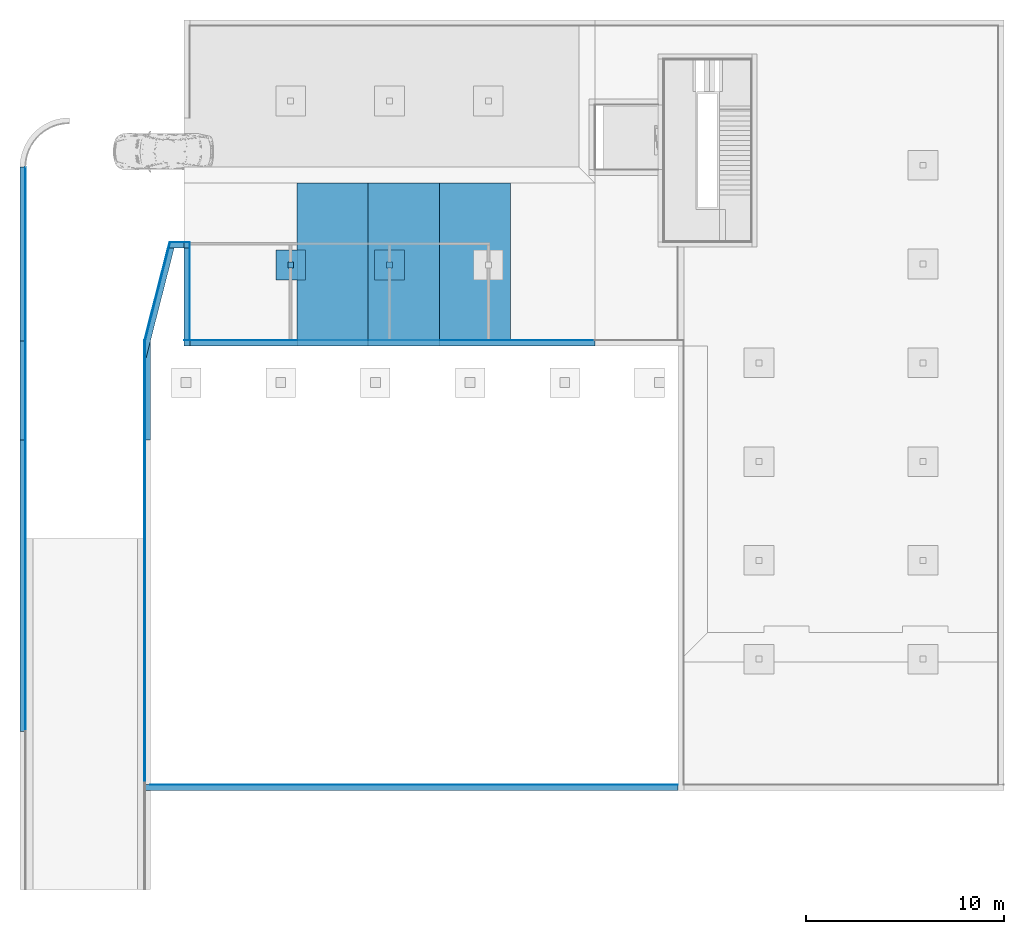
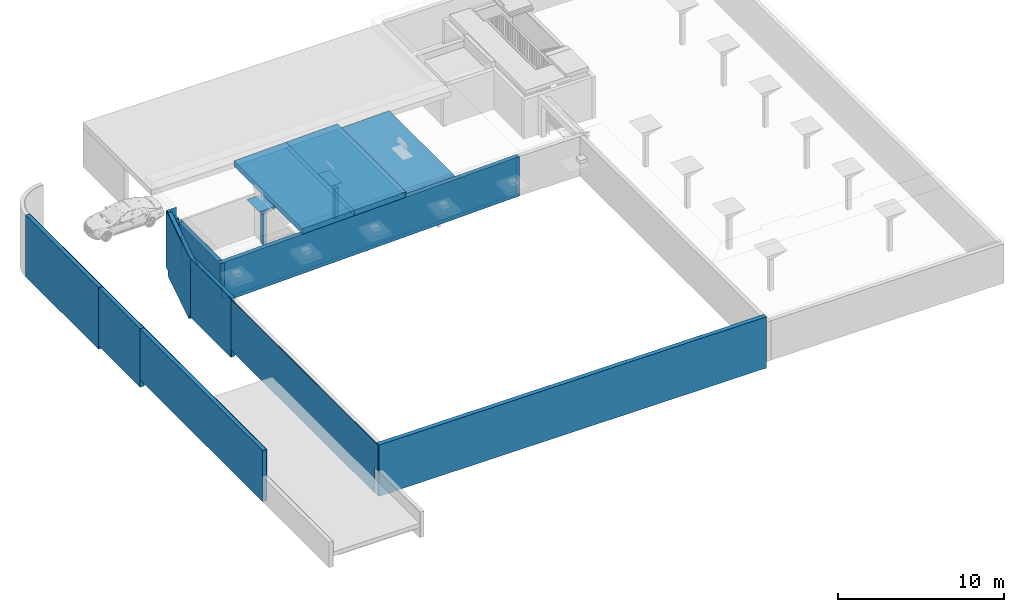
# One storey, part 2 of 7: 28 building element parts, 15 elements without a shape of their own.
"""IFC4 building model written with IfcOpenShell, lengths in millimetres."""

from ifc_helpers import new_model, entity, si_unit, converted_unit, derived_unit, direction, frame, origin_with_axes, place, context, subcontext, project, spatial, polygons, material, type_object, element, aggregate, save


model = new_model("IFC4")

# Units and contexts
model_context = context("Model", 3, precision=0.01, world=origin_with_axes(), true_north=direction((0.0, 1.0)))
body_context = subcontext(model_context, "Body", "Model", "MODEL_VIEW")
ifc_project = project(units=[si_unit("LENGTHUNIT", "METRE", prefix="MILLI"), si_unit("AREAUNIT", "SQUARE_METRE"), si_unit("VOLUMEUNIT", "CUBIC_METRE"), converted_unit("PLANEANGLEUNIT", "DEGREE", entity("IfcPlaneAngleMeasure", 0.0174532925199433), si_unit("PLANEANGLEUNIT", "RADIAN"), dimensions=[0, 0, 0, 0, 0, 0, 0]), converted_unit("TIMEUNIT", "Year", entity("IfcTimeMeasure", 31557600.0), si_unit("TIMEUNIT", "SECOND"), dimensions=[0, 0, 1, 0, 0, 0, 0]), si_unit("MASSUNIT", "GRAM", prefix="KILO"), si_unit("THERMODYNAMICTEMPERATUREUNIT", "DEGREE_CELSIUS"), si_unit("LUMINOUSINTENSITYUNIT", "LUMEN"), si_unit("ENERGYUNIT", "JOULE", prefix="MEGA"), derived_unit("THERMALCONDUCTANCEUNIT", [(si_unit("POWERUNIT", "WATT"), 1), (si_unit("LENGTHUNIT", "METRE"), -1), (si_unit("THERMODYNAMICTEMPERATUREUNIT", "KELVIN"), -1)]), derived_unit("SPECIFICHEATCAPACITYUNIT", [(si_unit("ENERGYUNIT", "JOULE"), 1), (si_unit("MASSUNIT", "GRAM", prefix="KILO"), -1), (si_unit("THERMODYNAMICTEMPERATUREUNIT", "KELVIN"), -1)]), derived_unit("MASSDENSITYUNIT", [(si_unit("MASSUNIT", "GRAM", prefix="KILO"), 1), (si_unit("VOLUMEUNIT", "CUBIC_METRE"), -1)])], contexts=[model_context])

# Site, building, storey
site_placement = place(None, origin_with_axes())
site = spatial("IfcSite", under=ifc_project, at=site_placement, Name="Gelände", CompositionType="ELEMENT")
building_placement = place(site_placement, origin_with_axes())
building = spatial("IfcBuilding", under=site, at=building_placement, Name="Gebäude", CompositionType="ELEMENT")
storey_placement = place(building_placement, frame((0.0, 0.0, -3900.000000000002), z_axis=(0.0, 0.0, 1.0), x_axis=(1.0, 0.0, 0.0)))
storey = spatial("IfcBuildingStorey", under=building, at=storey_placement, Name="UG", CompositionType="ELEMENT", Elevation=-3900.0)

# Covering, building element part
covering_type = type_object("IfcCoveringType", Name="Deckenbekleidung Typ 01 65", PredefinedType="NOTDEFINED")
covering_placement = place(storey_placement, frame((-8571.001794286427, 31197.59699912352, 2834.97306921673), z_axis=(0.0, 0.0, 1.0), x_axis=(0.0, -1.0, 0.0)))
covering = element("IfcCovering", 1, at=covering_placement, inside=storey, type_object=covering_type, Name="Dach-011", PredefinedType="NOTDEFINED")
ifc_material_1 = material(Name="Lattenrost vertikal")
building_element_part_1_placement = place(covering_placement, origin_with_axes())
building_element_part_1 = element("IfcBuildingElementPart", 2, at=building_element_part_1_placement, material=ifc_material_1, Name="Lattenrost vertikal", PredefinedType="NOTDEFINED", context=body_context, shape_type="Tessellation", body=[
    polygons([(8250.000257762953, 12922.99761277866, 437.7024497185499), (8250.000257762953, 16522.99761277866, 541.5198129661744), (0.0, 16522.99761277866, 541.5198129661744), (0.0, 12922.99761277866, 437.7024497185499), (8250.000258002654, 12922.99761296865, 397.6858203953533), (8250.000258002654, 16522.99761301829, 501.5031836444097), (1.083790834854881e-07, 16522.99761301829, 501.5031836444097), (1.083790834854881e-07, 12922.99761296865, 397.6858203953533)], [[[1, 2, 3, 4]], [[1, 5, 6, 2]], [[2, 6, 7, 3]], [[3, 7, 8, 4]], [[4, 8, 5, 1]], [[5, 8, 7, 6]]], closed=True),
])
aggregate(covering, [building_element_part_1])

# Wall, building element part
wall_type_1 = type_object("IfcWallType", Name="Aussenwand Typ 03 301", PredefinedType="NOTDEFINED")
wall_1_placement = place(storey_placement, frame((12228.99718832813, 22947.59853319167, 0.0), z_axis=(0.0, 0.0, 1.0), x_axis=(-0.9999999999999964, -8.614572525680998e-08, 0.0)))
wall_1 = element("IfcWall", 3, at=wall_1_placement, inside=storey, type_object=wall_type_1, Name="Wand-013", PredefinedType="NOTDEFINED")
ifc_material_2 = material(Name="Beton bewehrt")
building_element_part_2_placement = place(wall_1_placement, origin_with_axes())
building_element_part_2 = element("IfcBuildingElementPart", 4, at=building_element_part_2_placement, material=ifc_material_2, Name="Beton bewehrt", PredefinedType="NOTDEFINED", context=body_context, shape_type="Tessellation", body=[
    polygons([(-4.086162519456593e-06, 0.001125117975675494, 599.9999722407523), (-2.584362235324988e-05, -299.9988743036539, 599.9999689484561), (-2.584370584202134e-05, -299.9998634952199, 3499.833724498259), (0.0, 0.0001365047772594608, 3499.833724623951), (109.0908145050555, -299.9987813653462, 587.9999765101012), (20154.54592650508, -300.0016925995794, 0.0), (20499.99971771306, -300.0017659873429, 0.0), (20499.99971771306, -300.0017630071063, 2900.000051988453), (20799.99971771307, -300.0017896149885, 2900.000077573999), (20799.99974355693, 0.0, 2900.000051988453), (20499.99974355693, 0.0, 2900.000051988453), (20499.99974355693, 0.0, 0.0), (20454.54772418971, 1.709452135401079e-06, 0.0)], [[[1, 2, 3, 4]], [[5, 2, 1]], [[2, 5, 6, 7, 8, 9, 3]], [[10, 4, 3, 9]], [[10, 11, 12, 13, 1, 4]], [[5, 1, 13, 6]], [[13, 12, 7, 6]], [[12, 11, 8, 7]], [[11, 10, 9, 8]]], closed=True),
])

wall_2_placement = place(storey_placement, frame((-8571.002555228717, 27897.59725747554, 0.0), z_axis=(0.0, 0.0, 1.0), x_axis=(-8.499947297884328e-08, -0.9999999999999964, 0.0)))
wall_2 = element("IfcWall", 5, at=wall_2_placement, inside=storey, type_object=wall_type_1, Name="Wand-013", PredefinedType="NOTDEFINED")
ifc_material_3 = material(Name="Anstrich Innen")
building_element_part_3_placement = place(wall_2_placement, origin_with_axes())
building_element_part_3 = element("IfcBuildingElementPart", 6, at=building_element_part_3_placement, material=ifc_material_3, Name="Anstrich Innen", PredefinedType="NOTDEFINED", context=body_context, shape_type="Tessellation", body=[
    polygons([(4650.000464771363, 300.0003952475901, 0.0), (-300.0000254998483, 299.9999745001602, 0.0), (-300.000025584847, 300.9999745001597, 0.0), (4650.000464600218, 301.0003952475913, 0.0), (4650.000464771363, 300.0003952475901, 2900.000051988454), (-300.0000254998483, 299.9999745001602, 2900.000051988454), (-300.000025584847, 300.9999745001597, 2900.000051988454), (4650.000464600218, 301.0003952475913, 2900.000051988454)], [[[1, 2, 3, 4]], [[5, 6, 2, 1]], [[3, 2, 6, 7]], [[4, 3, 7, 8]], [[4, 8, 5, 1]], [[8, 7, 6, 5]]], closed=True),
])

# Building element part
building_element_part_4_placement = place(wall_1_placement, origin_with_axes())
building_element_part_4 = element("IfcBuildingElementPart", 7, at=building_element_part_4_placement, material=ifc_material_3, Name="Anstrich Innen", PredefinedType="NOTDEFINED", context=body_context, shape_type="Tessellation", body=[
    polygons([(-2.584372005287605e-05, -299.9999999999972, 599.9999689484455), (-2.592986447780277e-05, -300.9999999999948, 599.9999689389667), (-2.592986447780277e-05, -300.9999999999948, 3499.833724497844), (-2.584372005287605e-05, -299.9999999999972, 3499.833724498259), (109.4548972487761, -301.000009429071, 587.959927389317), (109.0912602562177, -300.0000071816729, 587.9999274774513), (20153.54588261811, -301.0017361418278, 0.0), (20498.99971762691, -301.0017659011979, 0.0), (20498.99971762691, -301.0017659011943, 2900.000051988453), (20799.99971762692, -301.0017918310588, 2900.00007757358), (20799.99971771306, -300.0017896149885, 2900.000051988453), (20498.99971771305, -300.0017629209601, 2900.000051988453), (20498.99971771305, -300.0017659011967, 0.0), (20154.54588287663, -300.0017362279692, 0.0)], [[[1, 2, 3, 4]], [[5, 2, 1, 6]], [[2, 5, 7, 8, 9, 10, 3]], [[4, 3, 10, 11]], [[6, 1, 4, 11, 12, 13, 14]], [[5, 6, 14, 7]], [[14, 13, 8, 7]], [[8, 13, 12, 9]], [[12, 11, 10, 9]]], closed=True),
])

aggregate(wall_1, [building_element_part_2, building_element_part_4])

building_element_part_5_placement = place(wall_2_placement, origin_with_axes())
building_element_part_5 = element("IfcBuildingElementPart", 8, at=building_element_part_5_placement, material=ifc_material_2, Name="Beton bewehrt", PredefinedType="NOTDEFINED", context=body_context, shape_type="Tessellation", body=[
    polygons([(4950.000516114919, 0.0004207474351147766, 0.0), (0.0, 0.0, 0.0), (-2.549984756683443e-05, 300.0000000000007, 0.0), (4950.000464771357, 300.0004207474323, 0.0), (4950.000516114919, 0.0004207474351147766, 2900.000051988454), (0.0, 0.0, 2900.000051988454), (-2.549984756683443e-05, 300.0000000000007, 2900.000051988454), (4950.000464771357, 300.0004207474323, 2900.000051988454)], [[[1, 2, 3, 4]], [[5, 6, 2, 1]], [[3, 2, 6, 7]], [[4, 3, 7, 8]], [[4, 8, 5, 1]], [[8, 7, 6, 5]]], closed=True),
])

aggregate(wall_2, [building_element_part_3, building_element_part_5])

# Footing, building element parts
footing_type_1 = type_object("IfcFootingType", Name="Verschiedene Strukturen - 2 Segmente - 1500 x 1500 x 3017 (2263+754)", PredefinedType="NOTDEFINED")
footing_1_placement = place(storey_placement, frame((-3170.744596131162, 27047.59725747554, 38.14089893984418), z_axis=(0.0, 0.0, 1.0), x_axis=(1.0, 0.0, 0.0)))
footing_1 = element("IfcFooting", 9, at=footing_1_placement, inside=storey, type_object=footing_type_1, Name="Stütze-014", PredefinedType="NOTDEFINED")
building_element_part_6_placement = place(footing_1_placement, origin_with_axes())
building_element_part_6 = element("IfcBuildingElementPart", 10, at=building_element_part_6_placement, material=ifc_material_2, Name="Beton bewehrt", PredefinedType="NOTDEFINED", context=body_context, shape_type="Tessellation", body=[
    polygons([(-149.9999999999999, -149.9999999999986, 2263.10203793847), (-149.9999999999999, -149.9999999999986, 0.0), (149.9999999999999, -149.9999999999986, 0.0), (149.9999999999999, -149.9999999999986, 2263.10203793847), (-149.9999999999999, 149.9999999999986, 2263.10203793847), (-149.9999999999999, 149.9999999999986, 0.0), (149.9999999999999, 149.9999999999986, 0.0), (149.9999999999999, 149.9999999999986, 2263.10203793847)], [[[1, 2, 3, 4]], [[5, 6, 2, 1]], [[3, 2, 6, 7]], [[4, 3, 7, 8]], [[5, 1, 4, 8]], [[8, 7, 6, 5]]], closed=True),
])
building_element_part_7_placement = place(footing_1_placement, origin_with_axes())
building_element_part_7 = element("IfcBuildingElementPart", 11, at=building_element_part_7_placement, material=ifc_material_2, Name="Beton bewehrt", PredefinedType="NOTDEFINED", context=body_context, shape_type="Tessellation", body=[
    polygons([(750.0, -750.0, 3017.469383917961), (-750.0, -750.0, 3017.469383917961), (-149.9999999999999, -149.9999999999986, 2263.10203793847), (149.9999999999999, -149.9999999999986, 2263.10203793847), (750.0, 750.0, 3017.469383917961), (-750.0, 750.0, 3017.469383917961), (-149.9999999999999, 149.9999999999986, 2263.10203793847), (149.9999999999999, 149.9999999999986, 2263.10203793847)], [[[1, 2, 3, 4]], [[5, 6, 2, 1]], [[2, 6, 7, 3]], [[8, 4, 3, 7]], [[5, 1, 4, 8]], [[6, 5, 8, 7]]], closed=True),
])
aggregate(footing_1, [building_element_part_6, building_element_part_7])

footing_type_2 = type_object("IfcFootingType", Name="Verschiedene Strukturen - 2 Segmente - 1500 x 1500 x 3015 (2261+754)", PredefinedType="NOTDEFINED")
footing_2_placement = place(storey_placement, frame((1828.997492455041, 27047.59725747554, 184.7999999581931), z_axis=(0.0, 0.0, 1.0), x_axis=(1.0, 0.0, 0.0)))
footing_2 = element("IfcFooting", 12, at=footing_2_placement, inside=storey, type_object=footing_type_2, Name="Stütze-014", PredefinedType="NOTDEFINED")
building_element_part_8_placement = place(footing_2_placement, origin_with_axes())
building_element_part_8 = element("IfcBuildingElementPart", 13, at=building_element_part_8_placement, material=ifc_material_2, Name="Beton bewehrt", PredefinedType="NOTDEFINED", context=body_context, shape_type="Tessellation", body=[
    polygons([(-149.9999999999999, -149.9999999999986, 2261.275216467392), (-149.9999999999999, -149.9999999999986, 0.0), (149.9999999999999, -149.9999999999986, 0.0), (149.9999999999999, -149.9999999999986, 2261.275216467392), (-149.9999999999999, 149.9999999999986, 2261.275216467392), (-149.9999999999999, 149.9999999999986, 0.0), (149.9999999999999, 149.9999999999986, 0.0), (149.9999999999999, 149.9999999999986, 2261.275216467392)], [[[1, 2, 3, 4]], [[5, 6, 2, 1]], [[3, 2, 6, 7]], [[4, 3, 7, 8]], [[5, 1, 4, 8]], [[8, 7, 6, 5]]], closed=True),
])
building_element_part_9_placement = place(footing_2_placement, origin_with_axes())
building_element_part_9 = element("IfcBuildingElementPart", 14, at=building_element_part_9_placement, material=ifc_material_2, Name="Beton bewehrt", PredefinedType="NOTDEFINED", context=body_context, shape_type="Tessellation", body=[
    polygons([(750.0, -750.0, 3015.033621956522), (-750.0, -750.0, 3015.033621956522), (-149.9999999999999, -149.9999999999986, 2261.275216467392), (149.9999999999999, -149.9999999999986, 2261.275216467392), (750.0, 750.0, 3015.033621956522), (-750.0, 750.0, 3015.033621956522), (-149.9999999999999, 149.9999999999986, 2261.275216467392), (149.9999999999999, 149.9999999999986, 2261.275216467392)], [[[1, 2, 3, 4]], [[5, 6, 2, 1]], [[2, 6, 7, 3]], [[8, 4, 3, 7]], [[5, 1, 4, 8]], [[6, 5, 8, 7]]], closed=True),
])
aggregate(footing_2, [building_element_part_8, building_element_part_9])

# Slab, building element parts
slab_type_1 = type_object("IfcSlabType", Name="Geschossdecke Typ 08 401", PredefinedType="NOTDEFINED")
slab_1_placement = place(storey_placement, frame((-8571.00297597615, 39447.59725747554, 2898.999676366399), z_axis=(0.0, 0.0, 1.0), x_axis=(7.161755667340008e-08, -0.9999999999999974, 0.0)))
slab_1 = element("IfcSlab", 15, at=slab_1_placement, inside=storey, type_object=slab_type_1, Name="Dach-011", PredefinedType="NOTDEFINED")
building_element_part_10_placement = place(slab_1_placement, origin_with_axes())
building_element_part_10 = element("IfcBuildingElementPart", 16, at=building_element_part_10_placement, material=ifc_material_2, Name="Beton bewehrt", PredefinedType="NOTDEFINED", context=body_context, shape_type="Tessellation", body=[
    polygons([(8250.000926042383, 9322.998203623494, 670.0247898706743), (8250.00066821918, 5722.998203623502, 566.2074266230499), (16500.00092598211, 5722.997612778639, 566.2074095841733), (16500.00118380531, 9322.997612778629, 670.0247728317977), (8250.00092539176, 9322.998204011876, 269.8584965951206), (8250.00066741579, 5722.998203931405, 166.0411333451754), (16500.00092539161, 5722.997612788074, 166.0411162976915), (16500.00118336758, 9322.997612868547, 269.8584795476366)], [[[1, 2, 3, 4]], [[1, 5, 6, 2]], [[2, 6, 7, 3]], [[3, 7, 8, 4]], [[4, 8, 5, 1]], [[5, 8, 7, 6]]], closed=True),
])
building_element_part_11_placement = place(slab_1_placement, origin_with_axes())
building_element_part_11 = element("IfcBuildingElementPart", 17, at=building_element_part_11_placement, material=ifc_material_3, Name="Anstrich Innen", PredefinedType="NOTDEFINED", context=body_context, shape_type="Tessellation", body=[
    polygons([(16500.00118336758, 9322.997612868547, 269.8584795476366), (16500.00118336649, 9322.99761286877, 268.8580642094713), (8250.000925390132, 9322.998204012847, 268.8580812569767), (8250.00092539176, 9322.998204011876, 269.8584965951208), (16500.00092539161, 5722.997612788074, 166.0411162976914), (16500.00092539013, 5722.997612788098, 165.0407009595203), (8250.000667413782, 5722.998203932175, 165.0407180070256), (8250.00066741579, 5722.998203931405, 166.0411333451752)], [[[1, 2, 3, 4]], [[5, 6, 2, 1]], [[2, 6, 7, 3]], [[4, 3, 7, 8]], [[4, 8, 5, 1]], [[8, 7, 6, 5]]], closed=True),
])
aggregate(slab_1, [building_element_part_10, building_element_part_11])

slab_type_2 = type_object("IfcSlabType", Name="Geschossdecke Typ 07 410", PredefinedType="NOTDEFINED")
slab_2_placement = place(storey_placement, frame((-8571.00297597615, 39447.59725747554, 2889.995934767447), z_axis=(0.0, 0.0, 1.0), x_axis=(7.161755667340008e-08, -0.9999999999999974, 0.0)))
slab_2 = element("IfcSlab", 18, at=slab_2_placement, inside=storey, type_object=slab_type_2, Name="Dach-011", PredefinedType="NOTDEFINED")
building_element_part_12_placement = place(slab_2_placement, origin_with_axes())
building_element_part_12 = element("IfcBuildingElementPart", 19, at=building_element_part_12_placement, material=ifc_material_2, Name="Beton bewehrt", PredefinedType="NOTDEFINED", context=body_context, shape_type="Tessellation", body=[
    polygons([(8250.001183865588, 12922.99820362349, 782.8458947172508), (8250.000926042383, 9322.998203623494, 679.0285314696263), (16500.00118380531, 9322.99761277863, 679.0285144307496), (16500.00144162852, 12922.99761277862, 782.8458776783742), (8250.001183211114, 12922.99820400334, 382.6796014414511), (8250.000925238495, 9322.998203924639, 278.8622381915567), (16500.00118320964, 9322.99761278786, 278.8622211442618), (16500.00144118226, 12922.99761286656, 382.6795843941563)], [[[1, 2, 3, 4]], [[1, 5, 6, 2]], [[2, 6, 7, 3]], [[3, 7, 8, 4]], [[4, 8, 5, 1]], [[5, 8, 7, 6]]], closed=True),
])
ifc_material_4 = material(Name="Kalkzementputz Aussen")
building_element_part_13_placement = place(slab_2_placement, origin_with_axes())
building_element_part_13 = element("IfcBuildingElementPart", 20, at=building_element_part_13_placement, material=ifc_material_4, Name="Kalkzementputz Aussen", PredefinedType="NOTDEFINED", context=body_context, shape_type="Tessellation", body=[
    polygons([(16500.00144118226, 12922.99761286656, 382.6795843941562), (16500.00144117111, 12922.99761286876, 372.6754269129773), (8250.001183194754, 12922.99820401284, 372.6754439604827), (8250.001183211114, 12922.99820400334, 382.6796014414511), (16500.00118320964, 9322.99761278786, 278.8622211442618), (16500.00118319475, 9322.997612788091, 268.8580636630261), (8250.000925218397, 9322.998203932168, 268.8580807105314), (8250.000925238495, 9322.998203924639, 278.8622381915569)], [[[1, 2, 3, 4]], [[5, 6, 2, 1]], [[2, 6, 7, 3]], [[4, 3, 7, 8]], [[4, 8, 5, 1]], [[8, 7, 6, 5]]], closed=True),
])
aggregate(slab_2, [building_element_part_12, building_element_part_13])

# Wall, building element part
wall_3_placement = place(storey_placement, frame((-8571.002555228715, 27897.59725747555, -640.0000011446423), z_axis=(0.0, 0.0, 1.0), x_axis=(-1.0, 0.0, 0.0)))
wall_3 = element("IfcWall", 21, at=wall_3_placement, inside=storey, type_object=wall_type_1, Name="Wand-013", PredefinedType="NOTDEFINED")
building_element_part_14_placement = place(wall_3_placement, origin_with_axes())
building_element_part_14 = element("IfcBuildingElementPart", 22, at=building_element_part_14_placement, material=ifc_material_3, Name="Anstrich Innen", PredefinedType="NOTDEFINED", context=body_context, shape_type="Tessellation", body=[
    polygons([(0.0, -300.0000047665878, 365.5000000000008), (0.0, -300.9999999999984, 365.5000000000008), (0.0, -300.9999999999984, 640.0000011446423), (0.0, -300.0000047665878, 640.0000011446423), (691.4895776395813, -301.0000000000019, 365.5000000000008), (691.7448993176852, -299.999990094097, 365.5000000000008), (691.4895776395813, -301.0000000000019, 4540.000053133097), (0.0, -300.9999999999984, 4540.000053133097), (0.0, -300.9999999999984, 3540.000053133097), (-300.999978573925, -300.9999999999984, 3540.000053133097), (-300.999978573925, -300.9999999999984, 640.0000011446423), (-300.999978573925, -300.0000047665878, 640.0000011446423), (-300.999978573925, -300.0000017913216, 3540.000053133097), (0.0, -300.0000017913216, 3540.000053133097), (0.0, -300.0000047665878, 4540.000053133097), (691.7448967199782, -300.0000002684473, 4540.000053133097)], [[[1, 2, 3, 4]], [[5, 2, 1, 6]], [[2, 5, 7, 8, 9, 10, 11, 3]], [[12, 4, 3, 11]], [[6, 1, 4, 12, 13, 14, 15, 16]], [[5, 6, 16, 7]], [[8, 7, 16, 15]], [[8, 15, 14, 9]], [[9, 14, 13, 10]], [[12, 11, 10, 13]]], closed=True),
])

wall_type_2 = type_object("IfcWallType", Name="Aussenwand Typ 04 300", PredefinedType="NOTDEFINED")
wall_4_placement = place(storey_placement, frame((-10271.00255522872, 18197.59725747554, 135.0666652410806), z_axis=(0.0, 0.0, 1.0), x_axis=(0.0, -1.0, 0.0)))
wall_4 = element("IfcWall", 23, at=wall_4_placement, inside=storey, type_object=wall_type_2, Name="Wand-014", PredefinedType="NOTDEFINED")
ifc_material_5 = material(Name="Sichtbeton")
building_element_part_15_placement = place(wall_4_placement, origin_with_axes())
building_element_part_15 = element("IfcBuildingElementPart", 24, at=building_element_part_15_placement, material=ifc_material_5, Name="Sichtbeton", PredefinedType="NOTDEFINED", context=body_context, shape_type="Tessellation", body=[
    polygons([(17349.20177761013, -260.0030015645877, 1864.981198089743), (17349.20177761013, -260.0030015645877, 0.0), (0.0, -259.9999999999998, 0.0), (0.0, -259.9999999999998, 3764.933386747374), (17750.20176990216, -259.999999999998, 3764.933386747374), (17750.20177803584, -259.9999999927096, 1864.981198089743), (17349.2020770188, -300.0030015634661, 1864.981198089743), (17349.2020770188, -300.0030015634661, 0.0), (0.0, -300.0000000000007, 0.0), (0.0, -299.9999999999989, 3764.933386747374), (17750.20206931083, -299.9999999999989, 3764.933386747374), (17750.20207744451, -299.9999999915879, 1864.981198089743)], [[[1, 2, 3, 4, 5, 6]], [[2, 1, 7, 8]], [[2, 8, 9, 3]], [[3, 9, 10, 4]], [[10, 11, 5, 4]], [[12, 6, 5, 11]], [[1, 6, 12, 7]], [[7, 12, 11, 10, 9, 8]]], closed=True),
])
aggregate(wall_4, [building_element_part_15])

# Wall, building element parts
wall_5_placement = place(storey_placement, frame((-10271.00255522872, 23197.59725747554, -400.3085709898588), z_axis=(0.0, 0.0, 1.0), x_axis=(0.0, -1.0, 0.0)))
wall_5 = element("IfcWall", 25, at=wall_5_placement, inside=storey, type_object=wall_type_2, Name="Wand-013", PredefinedType="NOTDEFINED")
building_element_part_16_placement = place(wall_5_placement, origin_with_axes())
building_element_part_16 = element("IfcBuildingElementPart", 26, at=building_element_part_16_placement, material=ifc_material_2, Name="Beton bewehrt", PredefinedType="NOTDEFINED", context=body_context, shape_type="Tessellation", body=[
    polygons([(1018.333333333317, -259.9999999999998, 4300.308622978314), (5000.0, -259.9999999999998, 4300.308622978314), (5000.0, 0.0, 4300.308622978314), (0.0, 0.0, 4300.308622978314), (1018.333333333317, -259.9999999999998, 0.0), (5000.0, -260.0000000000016, 0.0), (5000.0, 0.0, 0.0), (0.0, 0.0, 0.0)], [[[1, 2, 3, 4]], [[5, 6, 2, 1]], [[3, 2, 6, 7]], [[4, 3, 7, 8]], [[5, 1, 4, 8]], [[8, 7, 6, 5]]], closed=True),
])
building_element_part_17_placement = place(wall_5_placement, origin_with_axes())
building_element_part_17 = element("IfcBuildingElementPart", 27, at=building_element_part_17_placement, material=ifc_material_5, Name="Sichtbeton", PredefinedType="NOTDEFINED", context=body_context, shape_type="Tessellation", body=[
    polygons([(123.9991542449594, -299.9999999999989, 4300.308622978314), (5000.0, -300.0000000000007, 4300.308622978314), (5000.0, -259.9999999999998, 4300.308622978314), (-32.66751242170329, -259.9999999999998, 4300.308622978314), (123.9991542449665, -300.0000000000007, 0.0), (5000.0, -300.0000000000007, 0.0), (5000.0, -260.0000000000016, 0.0), (-32.66751242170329, -259.9999999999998, 0.0)], [[[1, 2, 3, 4]], [[5, 6, 2, 1]], [[3, 2, 6, 7]], [[4, 3, 7, 8]], [[5, 1, 4, 8]], [[8, 7, 6, 5]]], closed=True),
])
aggregate(wall_5, [building_element_part_16, building_element_part_17])

wall_6_placement = place(storey_placement, frame((-9071.002555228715, 27897.59725747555, -640.0000011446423), z_axis=(0.0, 0.0, 1.0), x_axis=(-0.2473832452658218, -0.9689177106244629, 0.0)))
wall_6 = element("IfcWall", 28, at=wall_6_placement, inside=storey, type_object=wall_type_2, Name="Wand-013", PredefinedType="NOTDEFINED")
building_element_part_18_placement = place(wall_6_placement, origin_with_axes())
building_element_part_18 = element("IfcBuildingElementPart", 29, at=building_element_part_18_placement, material=ifc_material_5, Name="Sichtbeton", PredefinedType="NOTDEFINED", context=body_context, shape_type="Tessellation", body=[
    polygons([(396.4754974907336, -260.0000000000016, 0.0), (396.4754974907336, -260.0000000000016, 365.5000000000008), (-244.2729177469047, -260.0000000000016, 365.5000000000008), (-244.2729177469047, -260.0000000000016, 4540.000053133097), (5045.133084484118, -259.999999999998, 4540.000053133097), (5045.133084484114, -259.9999999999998, 239.6914294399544), (4850.773134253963, -260.0000000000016, 239.6914294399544), (4850.773134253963, -260.0000000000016, 0.0), (239.8088308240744, -299.9999999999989, 0.0), (239.8088308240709, -300.0000000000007, 365.5000000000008), (-234.0601517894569, -299.9999999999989, 365.5000000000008), (-234.0601517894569, -299.9999999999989, 4540.000053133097), (4888.466417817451, -299.9999999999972, 4540.000053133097), (4888.466417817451, -299.9999999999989, 239.6914294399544), (4850.773134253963, -300.0000000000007, 239.6914294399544), (4850.773134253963, -300.0000000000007, 0.0)], [[[1, 2, 3, 4, 5, 6, 7, 8]], [[9, 10, 2, 1]], [[11, 3, 2, 10]], [[3, 11, 12, 4]], [[13, 5, 4, 12]], [[5, 13, 14, 6]], [[7, 6, 14, 15]], [[15, 16, 8, 7]], [[9, 1, 8, 16]], [[10, 9, 16, 15, 14, 13, 12, 11]]], closed=True),
])
building_element_part_19_placement = place(wall_6_placement, origin_with_axes())
building_element_part_19 = element("IfcBuildingElementPart", 30, at=building_element_part_19_placement, material=ifc_material_2, Name="Beton bewehrt", PredefinedType="NOTDEFINED", context=body_context, shape_type="Tessellation", body=[
    polygons([(877.2674817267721, 0.0, 0.0), (877.267481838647, -4.381632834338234e-07, 365.5000000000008), (1.287533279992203e-05, -3.527489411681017e-08, 365.5000000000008), (-1.557712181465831e-06, -4.381632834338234e-07, 4540.000053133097), (5901.773980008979, 0.0, 4540.000053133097), (5901.773980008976, 0.0, 239.6914301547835), (4850.773134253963, 0.0, 239.6914294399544), (4850.773134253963, 0.0, 0.0), (885.4258653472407, -31.95366918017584, 0.0), (910.1641898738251, -128.845440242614, 0.0), (910.1641898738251, -128.845440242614, 365.5000000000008), (66.38300083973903, -260.0000000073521, 365.5000000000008), (396.475497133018, -260.0000000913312, 365.5000000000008), (66.38297852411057, -260.0000000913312, 4540.000053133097), (4883.440646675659, -259.999999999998, 4540.000053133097), (4883.440646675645, -260.0000000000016, 239.6914301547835), (4850.773134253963, -260.0000000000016, 239.6914294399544), (4850.773134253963, -260.0000000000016, 0.0), (396.4754974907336, -260.0000000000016, 0.0), (822.0807616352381, -151.3348261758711, 0.0)], [[[1, 2, 3, 4, 5, 6, 7, 8]], [[2, 1, 9, 10, 11]], [[12, 3, 2, 11, 13]], [[3, 12, 14, 4]], [[5, 4, 14, 15]], [[6, 5, 15, 16]], [[7, 6, 16, 17]], [[17, 18, 8, 7]], [[9, 1, 8, 18, 19, 20, 10]], [[19, 13, 11, 10, 20]], [[13, 19, 18, 17, 16, 15, 14, 12]]], closed=True),
])
aggregate(wall_6, [building_element_part_18, building_element_part_19])

# Building element part
building_element_part_20_placement = place(wall_3_placement, origin_with_axes())
building_element_part_20 = element("IfcBuildingElementPart", 31, at=building_element_part_20_placement, material=ifc_material_2, Name="Beton bewehrt", PredefinedType="NOTDEFINED", context=body_context, shape_type="Tessellation", body=[
    polygons([(0.0, -4.230034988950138e-06, 365.5000000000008), (0.0, -300.0000047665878, 365.5000000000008), (0.0, -300.0000047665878, 640.0000011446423), (0.0, -4.230034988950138e-06, 640.0000011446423), (691.7448992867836, -299.9999902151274, 365.5000000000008), (768.3406469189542, 2.13442028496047e-05, 365.5000000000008), (691.7448967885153, -300.0000000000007, 3900.000051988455), (0.0, -300.0000000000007, 3900.000051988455), (0.0, -300.0000017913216, 3540.000053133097), (-299.9999999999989, -300.0000017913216, 3540.000053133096), (-299.9999999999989, -300.0000047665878, 640.0000011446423), (-299.9999999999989, -4.230034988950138e-06, 640.0000011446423), (-299.9999999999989, 2.619234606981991e-06, 3540.000053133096), (0.0, 2.619234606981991e-06, 3540.000053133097), (0.0, 0.0, 3900.000051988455), (768.3406420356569, 2.217962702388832e-06, 3900.000051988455)], [[[1, 2, 3, 4]], [[5, 2, 1, 6]], [[2, 5, 7, 8, 9, 10, 11, 3]], [[3, 11, 12, 4]], [[6, 1, 4, 12, 13, 14, 15, 16]], [[5, 6, 16, 7]], [[16, 15, 8, 7]], [[9, 8, 15, 14]], [[14, 13, 10, 9]], [[12, 11, 10, 13]]], closed=True),
])

aggregate(wall_3, [building_element_part_14, building_element_part_20])

# Wall, building element part
wall_7_placement = place(storey_placement, frame((-16871.00255522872, 18197.59725747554, 135.0666652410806), z_axis=(0.0, 0.0, 1.0), x_axis=(0.0, -1.0, 0.0)))
wall_7 = element("IfcWall", 32, at=wall_7_placement, inside=storey, type_object=wall_type_2, Name="Wand-014", PredefinedType="NOTDEFINED")
building_element_part_21_placement = place(wall_7_placement, origin_with_axes())
building_element_part_21 = element("IfcBuildingElementPart", 33, at=building_element_part_21_placement, material=ifc_material_2, Name="Beton bewehrt", PredefinedType="NOTDEFINED", context=body_context, shape_type="Tessellation", body=[
    polygons([(14749.99997615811, 259.999999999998, 0.0), (14749.99997615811, 0.0, 0.0), (0.0, 0.0, 0.0), (0.0, 260.0000000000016, 0.0), (14749.99997615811, 259.999999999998, 3764.933386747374), (14749.99997615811, 0.0, 3764.933386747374), (0.0, 0.0, 3764.933386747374), (0.0, 260.0000000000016, 3764.933386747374)], [[[1, 2, 3, 4]], [[1, 5, 6, 2]], [[2, 6, 7, 3]], [[4, 3, 7, 8]], [[5, 1, 4, 8]], [[6, 5, 8, 7]]], closed=True),
])

# Wall, building element parts
wall_8_placement = place(storey_placement, frame((-16871.00255522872, 23197.59725747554, -400.3085709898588), z_axis=(0.0, 0.0, 1.0), x_axis=(0.0, -1.0, 0.0)))
wall_8 = element("IfcWall", 34, at=wall_8_placement, inside=storey, type_object=wall_type_2, Name="Wand-013", PredefinedType="NOTDEFINED")
building_element_part_22_placement = place(wall_8_placement, origin_with_axes())
building_element_part_22 = element("IfcBuildingElementPart", 35, at=building_element_part_22_placement, material=ifc_material_5, Name="Sichtbeton", PredefinedType="NOTDEFINED", context=body_context, shape_type="Tessellation", body=[
    polygons([(0.0, 300.0000000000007, 0.0), (5000.0, 300.0000000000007, 0.0), (5000.0, 259.999999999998, 0.0), (0.0, 260.0000000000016, 0.0), (0.0, 300.0000000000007, 4300.308622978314), (5000.0, 300.0000000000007, 4300.308622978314), (5000.0, 259.999999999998, 4300.308622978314), (0.0, 260.0000000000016, 4300.308622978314)], [[[1, 2, 3, 4]], [[5, 6, 2, 1]], [[3, 2, 6, 7]], [[4, 3, 7, 8]], [[5, 1, 4, 8]], [[8, 7, 6, 5]]], closed=True),
])
building_element_part_23_placement = place(wall_8_placement, origin_with_axes())
building_element_part_23 = element("IfcBuildingElementPart", 36, at=building_element_part_23_placement, material=ifc_material_2, Name="Beton bewehrt", PredefinedType="NOTDEFINED", context=body_context, shape_type="Tessellation", body=[
    polygons([(0.0, 260.0000000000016, 0.0), (5000.0, 259.999999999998, 0.0), (5000.0, 0.0, 0.0), (0.0, 0.0, 0.0), (0.0, 260.0000000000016, 4300.308622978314), (5000.0, 259.999999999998, 4300.308622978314), (5000.0, 0.0, 4300.308622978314), (0.0, 0.0, 4300.308622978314)], [[[1, 2, 3, 4]], [[5, 6, 2, 1]], [[3, 2, 6, 7]], [[4, 3, 7, 8]], [[5, 1, 4, 8]], [[8, 7, 6, 5]]], closed=True),
])
aggregate(wall_8, [building_element_part_22, building_element_part_23])

# Wall, building element part
wall_9_placement = place(storey_placement, frame((-16871.00255522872, 31997.59725747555, -640.0000011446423), z_axis=(0.0, 0.0, 1.0), x_axis=(0.0, -1.0, 0.0)))
wall_9 = element("IfcWall", 37, at=wall_9_placement, inside=storey, type_object=wall_type_2, Name="Wand-013", PredefinedType="NOTDEFINED")
building_element_part_24_placement = place(wall_9_placement, origin_with_axes())
building_element_part_24 = element("IfcBuildingElementPart", 38, at=building_element_part_24_placement, material=ifc_material_2, Name="Beton bewehrt", PredefinedType="NOTDEFINED", context=body_context, shape_type="Tessellation", body=[
    polygons([(0.0, 260.0000000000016, 0.0), (8800.000000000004, 259.999999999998, 0.0), (8800.000000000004, 0.0, 0.0), (0.0, 0.0, 0.0), (0.0, 260.0000000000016, 4540.000053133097), (8800.000000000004, 259.999999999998, 4540.000053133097), (8800.000000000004, 0.0, 4540.000053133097), (0.0, 0.0, 4540.000053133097)], [[[1, 2, 3, 4]], [[5, 6, 2, 1]], [[3, 2, 6, 7]], [[4, 3, 7, 8]], [[5, 1, 4, 8]], [[8, 7, 6, 5]]], closed=True),
])

# Building element part
building_element_part_25_placement = place(wall_7_placement, origin_with_axes())
building_element_part_25 = element("IfcBuildingElementPart", 39, at=building_element_part_25_placement, material=ifc_material_5, Name="Sichtbeton", PredefinedType="NOTDEFINED", context=body_context, shape_type="Tessellation", body=[
    polygons([(14749.99997615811, 299.9999999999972, 0.0), (14749.99997615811, 259.999999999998, 0.0), (0.0, 260.0000000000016, 0.0), (0.0, 300.0000000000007, 0.0), (14749.99997615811, 299.9999999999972, 3764.933386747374), (14749.99997615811, 259.999999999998, 3764.933386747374), (0.0, 260.0000000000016, 3764.933386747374), (0.0, 300.0000000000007, 3764.933386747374)], [[[1, 2, 3, 4]], [[1, 5, 6, 2]], [[2, 6, 7, 3]], [[4, 3, 7, 8]], [[5, 1, 4, 8]], [[6, 5, 8, 7]]], closed=True),
])

aggregate(wall_7, [building_element_part_21, building_element_part_25])

# Wall, building element part
wall_10_placement = place(storey_placement, frame((16428.99744477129, 447.5972813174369, 135.0666652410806), z_axis=(0.0, 0.0, 1.0), x_axis=(-0.9999999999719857, -7.485216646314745e-06, 0.0)))
wall_10 = element("IfcWall", 40, at=wall_10_placement, inside=storey, type_object=wall_type_1, Name="Wand-014", PredefinedType="NOTDEFINED")
building_element_part_26_placement = place(wall_10_placement, origin_with_axes())
building_element_part_26 = element("IfcBuildingElementPart", 41, at=building_element_part_26_placement, material=ifc_material_2, Name="Beton bewehrt", PredefinedType="NOTDEFINED", context=body_context, shape_type="Tessellation", body=[
    polygons([(0.0, -300.000000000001, 3764.933386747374), (0.0, 0.0, 3764.933386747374), (0.0, 0.0, 3364.933386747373), (0.0, 0.0, 464.93333475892), (0.0, 1.644147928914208e-06, 0.0), (0.0, -299.9999978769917, 0.0), (26959.99775519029, -300.0000000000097, 3764.933386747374), (26960.00000075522, -7.696734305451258e-06, 3764.933386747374), (26960.00000075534, 8.420922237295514e-06, 0.0), (26959.99775519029, -299.9999999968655, 0.0)], [[[1, 2, 3, 4, 5, 6]], [[2, 1, 7, 8]], [[9, 5, 4, 3, 2, 8]], [[6, 5, 9, 10]], [[7, 1, 6, 10]], [[9, 8, 7, 10]]], closed=True),
])

# Building element part
building_element_part_27_placement = place(wall_9_placement, origin_with_axes())
building_element_part_27 = element("IfcBuildingElementPart", 42, at=building_element_part_27_placement, material=ifc_material_5, Name="Sichtbeton", PredefinedType="NOTDEFINED", context=body_context, shape_type="Tessellation", body=[
    polygons([(0.0, 300.0000000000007, 0.0), (8800.000000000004, 299.9999999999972, 0.0), (8800.000000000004, 259.999999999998, 0.0), (0.0, 260.0000000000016, 0.0), (0.0, 300.0000000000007, 4540.000053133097), (8800.000000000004, 300.0000000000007, 4540.000053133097), (8800.000000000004, 259.999999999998, 4540.000053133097), (0.0, 260.0000000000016, 4540.000053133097)], [[[1, 2, 3, 4]], [[5, 6, 2, 1]], [[3, 2, 6, 7]], [[4, 3, 7, 8]], [[5, 1, 4, 8]], [[8, 7, 6, 5]]], closed=True),
])

aggregate(wall_9, [building_element_part_24, building_element_part_27])

building_element_part_28_placement = place(wall_10_placement, origin_with_axes())
building_element_part_28 = element("IfcBuildingElementPart", 43, at=building_element_part_28_placement, material=ifc_material_3, Name="Anstrich Innen", PredefinedType="NOTDEFINED", context=body_context, shape_type="Tessellation", body=[
    polygons([(0.0, -300.9999999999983, 3764.933386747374), (0.0, -300.000000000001, 3764.933386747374), (-0.002245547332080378, -299.9999979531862, 164.9333347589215), (-0.002253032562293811, -300.9999999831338, 164.9333347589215), (-0.002253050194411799, -300.9999999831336, 464.93333475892), (-0.002253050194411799, -300.9999999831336, 3364.933386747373), (26699.997755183, -300.0000000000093, 3764.933386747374), (26699.99774769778, -301.0000000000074, 3764.933386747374), (-0.002245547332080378, -299.9999979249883, 114.9333347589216), (699.9977544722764, -299.9999978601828, 114.9333347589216), (699.9977544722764, -299.9999978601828, 164.9333347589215), (26699.99775518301, -299.9999999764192, 0.0), (0.0, -299.9999978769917, 0.0), (699.9977469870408, -300.9999999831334, 164.9333347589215), (699.9977469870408, -300.9999999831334, 114.9333347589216), (-0.002253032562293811, -300.9999999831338, 114.9333347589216), (0.0, -300.9999999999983, 0.0), (26699.99774769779, -301.0000000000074, 0.0)], [[[1, 2, 3, 4, 5, 6]], [[7, 2, 1, 8]], [[9, 10, 11, 3, 2, 7, 12, 13]], [[3, 11, 14, 4]], [[4, 14, 15, 16, 17, 18, 8, 1, 6, 5]], [[18, 12, 7, 8]], [[15, 10, 9, 16]], [[11, 10, 15, 14]], [[18, 17, 13, 12]], [[13, 17, 16, 9]]], closed=True),
])

aggregate(wall_10, [building_element_part_26, building_element_part_28])

save(model, "model.ifc")
